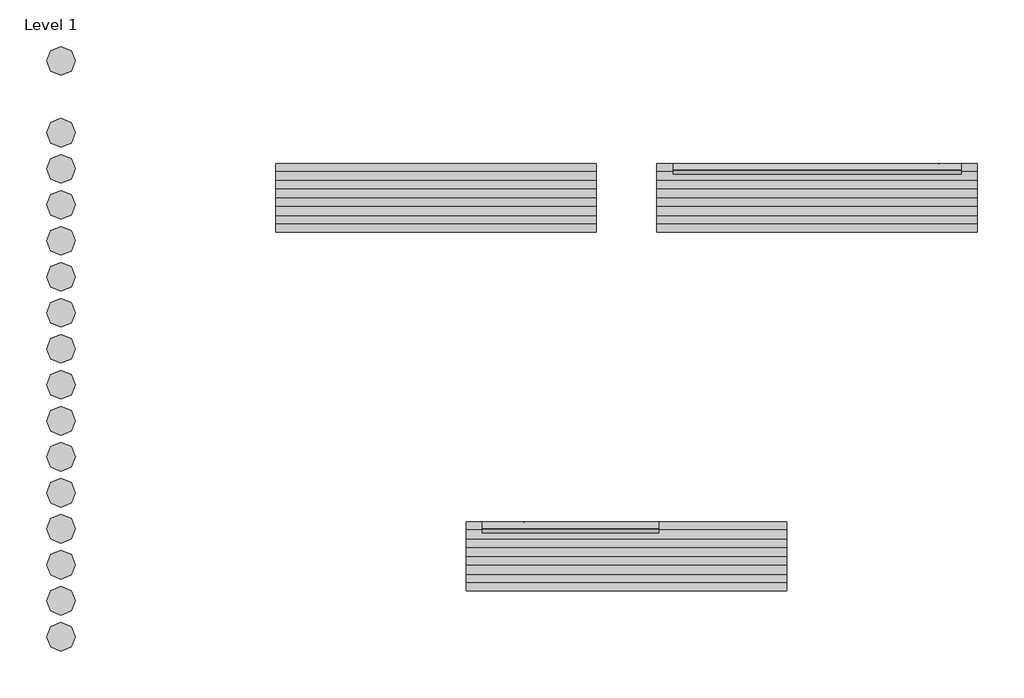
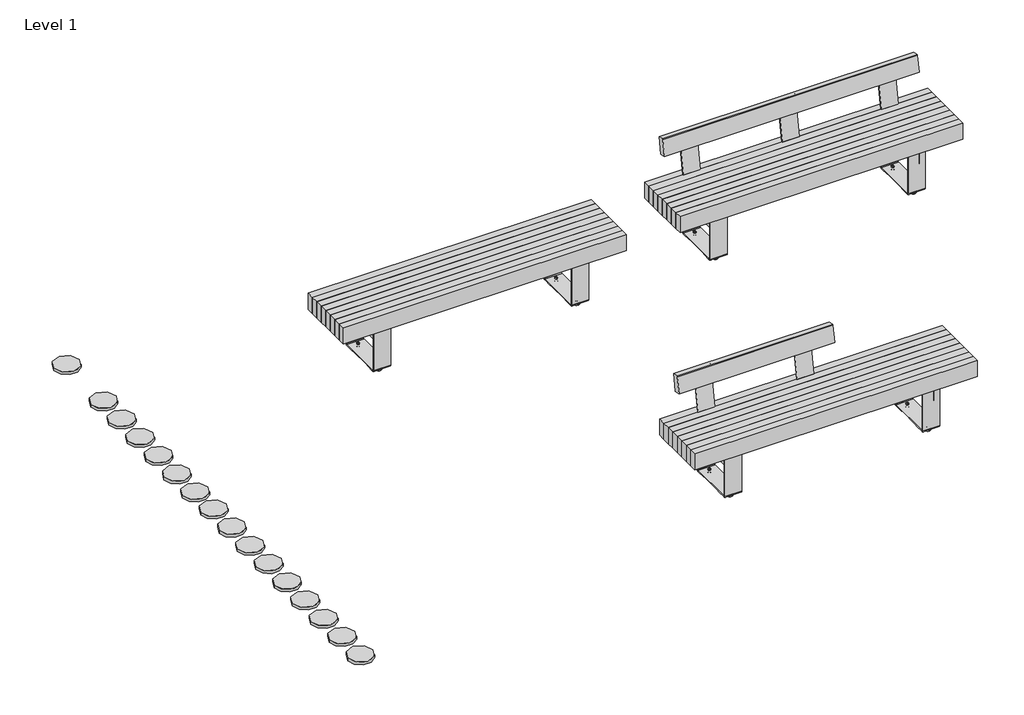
# One storey: 16 proxies, 3 furniture elements.
"""IFC4 building model written with IfcOpenShell, lengths in millimetres."""

from ifc_helpers import new_model, si_unit, origin, place, context, project, spatial, transform, mapped, element, save
from components import materialmodel_materialmodel_ff088fdc, furniture_1bf54539, furniture_3aa35da2, furniture_44ae5550, furniture_f9bc95f3

model = new_model("IFC4")

# Units and contexts
model_context = context("Model", 3, world=origin())
ifc_project = project(units=[si_unit("LENGTHUNIT", "METRE", prefix="MILLI")], contexts=[model_context])

# Site, building, storey
site = spatial("IfcSite", under=ifc_project)
building = spatial("IfcBuilding", under=site)
storey = spatial("IfcBuildingStorey", under=building, Name="Level 1", Elevation=0.0)

# Proxies
placement = place(None, origin())
materialmodel_materialmodel_shape = materialmodel_materialmodel_ff088fdc(model_context)
element("IfcBuildingElementProxy", 1, Name="MaterialModel : MaterialModel", ObjectType="MaterialModel : MaterialModel", at=placement, inside=storey, context=model_context, shape_type="MappedRepresentation", body=[
    mapped(materialmodel_materialmodel_shape, transform((-10113.5516042, 2803.1710583, 0.0), x_axis=(1.0, 0.0, 0.0), y_axis=(0.0, 1.0, 0.0), z_axis=(0.0, 0.0, 1.0))),
])
element("IfcBuildingElementProxy", 2, Name="MaterialModel : MaterialModel", ObjectType="MaterialModel : MaterialModel", at=placement, inside=storey, context=model_context, shape_type="MappedRepresentation", body=[
    mapped(materialmodel_materialmodel_shape, transform((-10113.5516042, 2578.362683, 0.0), x_axis=(1.0, 0.0, 0.0), y_axis=(0.0, 1.0, 0.0), z_axis=(0.0, 0.0, 1.0))),
])
element("IfcBuildingElementProxy", 3, Name="MaterialModel : MaterialModel", ObjectType="MaterialModel : MaterialModel", at=placement, inside=storey, context=model_context, shape_type="MappedRepresentation", body=[
    mapped(materialmodel_materialmodel_shape, transform((-10113.5516042, 2353.5543077, 0.0), x_axis=(1.0, 0.0, 0.0), y_axis=(0.0, 1.0, 0.0), z_axis=(0.0, 0.0, 1.0))),
])
element("IfcBuildingElementProxy", 4, Name="MaterialModel : MaterialModel", ObjectType="MaterialModel : MaterialModel", at=placement, inside=storey, context=model_context, shape_type="MappedRepresentation", body=[
    mapped(materialmodel_materialmodel_shape, transform((-10113.5516042, 2128.7459325, 0.0), x_axis=(1.0, 0.0, 0.0), y_axis=(0.0, 1.0, 0.0), z_axis=(0.0, 0.0, 1.0))),
])
element("IfcBuildingElementProxy", 5, Name="MaterialModel : MaterialModel", ObjectType="MaterialModel : MaterialModel", at=placement, inside=storey, context=model_context, shape_type="MappedRepresentation", body=[
    mapped(materialmodel_materialmodel_shape, transform((-10113.5516042, 1903.9375572, 0.0), x_axis=(1.0, 0.0, 0.0), y_axis=(0.0, 1.0, 0.0), z_axis=(0.0, 0.0, 1.0))),
])
element("IfcBuildingElementProxy", 6, Name="MaterialModel : MaterialModel", ObjectType="MaterialModel : MaterialModel", at=placement, inside=storey, context=model_context, shape_type="MappedRepresentation", body=[
    mapped(materialmodel_materialmodel_shape, transform((-10113.5516042, 1679.1291819, 0.0), x_axis=(1.0, 0.0, 0.0), y_axis=(0.0, 1.0, 0.0), z_axis=(0.0, 0.0, 1.0))),
])
element("IfcBuildingElementProxy", 7, Name="MaterialModel : MaterialModel", ObjectType="MaterialModel : MaterialModel", at=placement, inside=storey, context=model_context, shape_type="MappedRepresentation", body=[
    mapped(materialmodel_materialmodel_shape, transform((-10113.5516042, 1454.3208066, 10.0), x_axis=(1.0, 0.0, 0.0), y_axis=(0.0, 1.0, 0.0), z_axis=(0.0, 0.0, 1.0))),
])
element("IfcBuildingElementProxy", 8, Name="MaterialModel : MaterialModel", ObjectType="MaterialModel : MaterialModel", at=placement, inside=storey, context=model_context, shape_type="MappedRepresentation", body=[
    mapped(materialmodel_materialmodel_shape, transform((-10113.5516042, 1229.5124313, 10.0), x_axis=(1.0, 0.0, 0.0), y_axis=(0.0, 1.0, 0.0), z_axis=(0.0, 0.0, 1.0))),
])
element("IfcBuildingElementProxy", 9, Name="MaterialModel : MaterialModel", ObjectType="MaterialModel : MaterialModel", at=placement, inside=storey, context=model_context, shape_type="MappedRepresentation", body=[
    mapped(materialmodel_materialmodel_shape, transform((-10113.5516042, 1004.7040561, 10.0), x_axis=(1.0, 0.0, 0.0), y_axis=(0.0, 1.0, 0.0), z_axis=(0.0, 0.0, 1.0))),
])
element("IfcBuildingElementProxy", 10, Name="MaterialModel : MaterialModel", ObjectType="MaterialModel : MaterialModel", at=placement, inside=storey, context=model_context, shape_type="MappedRepresentation", body=[
    mapped(materialmodel_materialmodel_shape, transform((-10113.5516042, 779.8956808, 10.0), x_axis=(1.0, 0.0, 0.0), y_axis=(0.0, 1.0, 0.0), z_axis=(0.0, 0.0, 1.0))),
])
element("IfcBuildingElementProxy", 11, Name="MaterialModel : MaterialModel", ObjectType="MaterialModel : MaterialModel", at=placement, inside=storey, context=model_context, shape_type="MappedRepresentation", body=[
    mapped(materialmodel_materialmodel_shape, transform((-10113.5516042, 555.0873055, 10.0), x_axis=(1.0, 0.0, 0.0), y_axis=(0.0, 1.0, 0.0), z_axis=(0.0, 0.0, 1.0))),
])
element("IfcBuildingElementProxy", 12, Name="MaterialModel : MaterialModel", ObjectType="MaterialModel : MaterialModel", at=placement, inside=storey, context=model_context, shape_type="MappedRepresentation", body=[
    mapped(materialmodel_materialmodel_shape, transform((-10113.5516042, 330.2789302, 10.0), x_axis=(1.0, 0.0, 0.0), y_axis=(0.0, 1.0, 0.0), z_axis=(0.0, 0.0, 1.0))),
])
element("IfcBuildingElementProxy", 13, Name="MaterialModel : MaterialModel", ObjectType="MaterialModel : MaterialModel", at=placement, inside=storey, context=model_context, shape_type="MappedRepresentation", body=[
    mapped(materialmodel_materialmodel_shape, transform((-10113.5516042, 105.470555, 10.0), x_axis=(1.0, 0.0, 0.0), y_axis=(0.0, 1.0, 0.0), z_axis=(0.0, 0.0, 1.0))),
])
element("IfcBuildingElementProxy", 14, Name="MaterialModel : MaterialModel", ObjectType="MaterialModel : MaterialModel", at=placement, inside=storey, context=model_context, shape_type="MappedRepresentation", body=[
    mapped(materialmodel_materialmodel_shape, transform((-10113.5516042, -119.3378203, 10.0), x_axis=(1.0, 0.0, 0.0), y_axis=(0.0, 1.0, 0.0), z_axis=(0.0, 0.0, 1.0))),
])
element("IfcBuildingElementProxy", 15, Name="MaterialModel : MaterialModel", ObjectType="MaterialModel : MaterialModel", at=placement, inside=storey, context=model_context, shape_type="MappedRepresentation", body=[
    mapped(materialmodel_materialmodel_shape, transform((-10113.5516042, -344.1461956, 10.0), x_axis=(1.0, 0.0, 0.0), y_axis=(0.0, 1.0, 0.0), z_axis=(0.0, 0.0, 1.0))),
])
element("IfcBuildingElementProxy", 16, Name="MaterialModel : MaterialModel", ObjectType="MaterialModel : MaterialModel", at=placement, inside=storey, context=model_context, shape_type="MappedRepresentation", body=[
    mapped(materialmodel_materialmodel_shape, transform((-10113.5516042, 3252.214146, 0.0), x_axis=(1.0, 0.0, 0.0), y_axis=(0.0, 1.0, 0.0), z_axis=(0.0, 0.0, 1.0))),
])

# Furniture
furniture_shape = furniture_1bf54539(model_context)
element("IfcFurniture", 17, ObjectType="Roros Produkter - Femunden - Bench - 34365 : Roros Produkter - Femunden - Bench - 34365", at=placement, inside=storey, context=model_context, shape_type="MappedRepresentation", body=[
    mapped(furniture_shape, transform((-6583.9082205, 157.003752, 0.0), x_axis=(1.0, 0.0, 0.0), y_axis=(0.0, 1.0, 0.0), z_axis=(0.0, 0.0, 1.0))),
])
furniture_2_shape = furniture_3aa35da2(model_context)
furniture_3_shape = furniture_44ae5550(model_context)
element("IfcFurniture", 18, ObjectType="Roros Produkter - Femunden - Bench - 34360 : Roros Produkter - Femunden - Bench - 34360", at=placement, inside=storey, context=model_context, shape_type="MappedRepresentation", body=[
    mapped(furniture_2_shape, transform((-5393.9082205, 2397.003752, 0.0), x_axis=(1.0, 0.0, 0.0), y_axis=(0.0, 1.0, 0.0), z_axis=(0.0, 0.0, 1.0))),
    mapped(furniture_3_shape, transform((-5393.9082205, 2397.003752, 0.0), x_axis=(1.0, 0.0, 0.0), y_axis=(0.0, 1.0, 0.0), z_axis=(0.0, 0.0, 1.0))),
])
furniture_4_shape = furniture_f9bc95f3(model_context)
element("IfcFurniture", 19, ObjectType="Roros Produkter - Femunden - Bench - 34350 : Roros Produkter - Femunden - Bench - 34350", at=placement, inside=storey, context=model_context, shape_type="MappedRepresentation", body=[
    mapped(furniture_4_shape, transform((-7773.9082205, 2397.003752, 0.0), x_axis=(1.0, 0.0, 0.0), y_axis=(0.0, 1.0, 0.0), z_axis=(0.0, 0.0, 1.0))),
])

save(model, "model.ifc")
